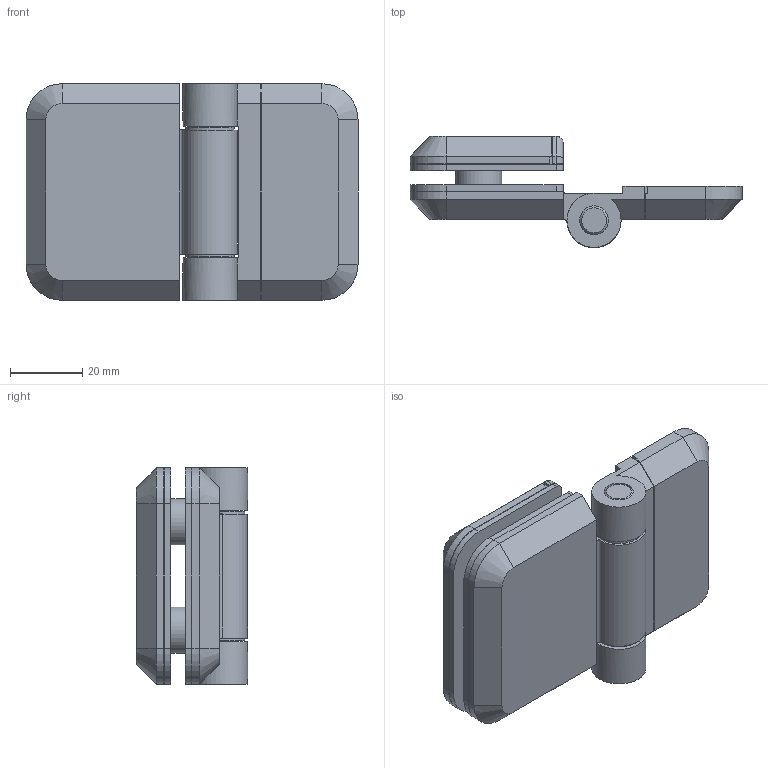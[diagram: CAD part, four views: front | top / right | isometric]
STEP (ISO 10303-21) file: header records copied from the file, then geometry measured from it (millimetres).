
FILE_DESCRIPTION(/* description */ ('STEP AP214'),/* implementation_level */ '2;1');
FILE_NAME(/* name */ 'Hinge GN 938-ZD-92-60-4-SW (4-0)',/* time_stamp */ '2024-03-14T08:44:18+01:00',/* author */ ('License CC BY-ND 4.0'),/* organization */ ('CADENAS'),/* preprocessor_version */ 'ST-DEVELOPER v19.3',/* originating_system */ 'PARTsolutions',/* authorisation */ ' ');
FILE_SCHEMA (('AUTOMOTIVE_DESIGN {1 0 10303 214 3 1 1}'));
Length unit declared in the file: millimetre
Products named in the file (4): Hinge GN 938-ZD-92-60-4-SW (4-0); Hinge GN 938-ZD-92-60-4-SW (4)-2; Hinge GN 938-ZD-92-60-4-SW (4)-1; Hinge GN 938-ZD-92-60-4-SW (4)-3
Assembly tree (3 placements, depth 2):
  Hinge GN 938-ZD-92-60-4-SW (4-0)
    Hinge GN 938-ZD-92-60-4-SW (4)-2
    Hinge GN 938-ZD-92-60-4-SW (4)-1
    Hinge GN 938-ZD-92-60-4-SW (4)-3
Bounding box: 92 x 30.8 x 60 mm (x, y, z)
Volume: 70808 mm3; surface area: 25724.6 mm2
Topology: 3 solids, 3 shells, 208 faces, 516 edges, 333 vertices
Faces by surface type: plane 143, cylinder 45, cone 20
Full cylindrical faces by diameter (mm): 4.134 x2, 6 x2, 6.2 x2, 8 x2, 8.1 x2, 11 x2, 11.2 x2, 12.8 x2, 13 x2, 13.5 x2
Entity records: 6842 total; most frequent: CARTESIAN_POINT 1021, DIRECTION 1008, ORIENTED_EDGE 954, EDGE_CURVE 477, LINE 366, VECTOR 366, VERTEX_POINT 326, AXIS2_PLACEMENT_3D 321
